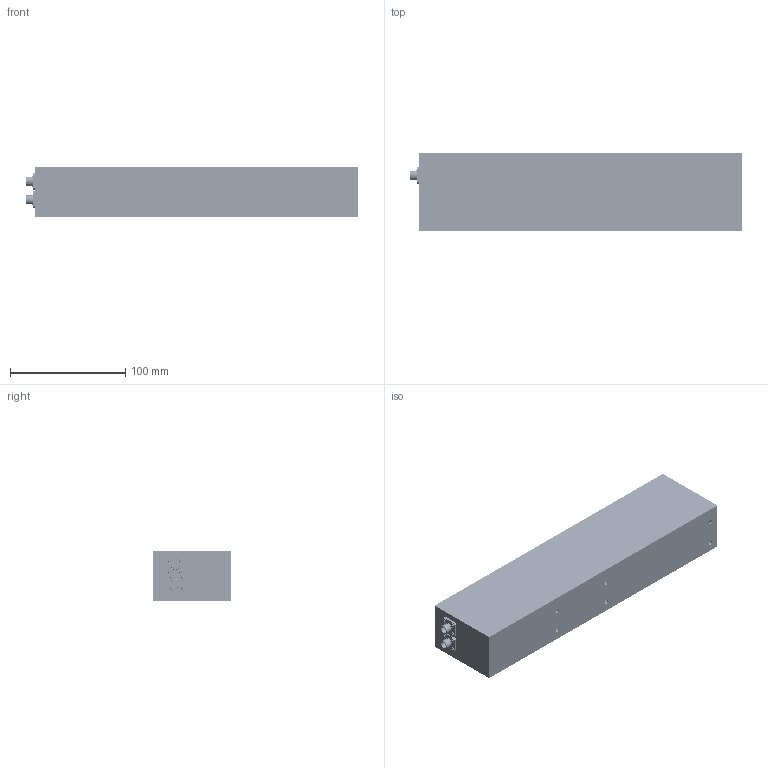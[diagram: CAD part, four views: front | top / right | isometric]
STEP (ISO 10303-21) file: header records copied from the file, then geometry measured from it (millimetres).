
FILE_DESCRIPTION (( 'STEP AP203' ), '1' );
FILE_NAME ('Mini motorized delay line layout.STEP', '2024-07-29T22:04:25', ( '' ), ( '' ), 'SwSTEP 2.0', 'SolidWorks 2018', '' );
FILE_SCHEMA (( 'CONFIG_CONTROL_DESIGN' ));
Length unit declared in the file: inch
Products named in the file (43): 6941xx301002.step; Mini motorized delay line layout; 6941xx301002_PinLame.step; SOIC-8-FOOTPRINT.step; connector-new; CONN_HEADER_2POS_2MM.step; MSSD Ver 1.0 v3.step; Board.step; CAPC3216X135.step; Model (5).step; mini 330ps box; CAPC1005X60.step; Model (2).step; Model (3).step; 1-soldermask.step; 6941xx301002_Back.step; 6941xx301002_PinContact2.step; RESC1005X40.step; Model (1).step; 1-copper.step; 694106301002.step; LEDC1005X25N_FLAT-G.step; SOT23.step; 16-soldermask.step; 16-copper.step; 694106301002_PinContact.step; 10103594.step; Model.step; SOT-23-5-FOOTPRINT.step; SOT-723-FOOTPRINT.step; CONN_HEADER_3POS_2MM.step; QFN-24-FOOTPRINT.step; 91290A012_Alloy Steel Socket Head Screw_91290A012; QSOP-24-FOOTPRINT.step; Model (4).step; Packages.step; Model (7).step; 10103594 v2.step; WSON-8.step; VLS3012HBX.step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
Assembly tree (71 placements, depth 5):
  Mini motorized delay line layout
    mini 330ps box
    connector-new  x2
    91290A012_Alloy Steel Socket Head Screw_91290A012  x8
    MSSD Ver 1.0 v3.step
      Packages.step
        10103594.step
          10103594 v2.step
        QFN-24-FOOTPRINT.step
          Model.step
        QSOP-24-FOOTPRINT.step
          Model (1).step
        SOIC-8-FOOTPRINT.step
          Model (2).step
        SOT-23-5-FOOTPRINT.step
          Model (3).step
        SOT-723-FOOTPRINT.step
          Model (4).step
        SP0503BAHTG-FOOTPRINT.step
          Model (5).step
        WSON-8.step
          Model (6).step
        LEDC1005X25N_FLAT-G.step
          Model (7).step
        694106301002.step
          6941xx301002.step
          694106301002_PinContact.step
          6941xx301002_Back.step
          6941xx301002_PinContact2.step
          6941xx301002_PinLame.step
          6941xx301002_PinBis.step
        CAPC1005X60.step  x10
        CAPC3216X135.step  x3
        CONN_HEADER_2POS_2MM.step
        CONN_HEADER_3POS_2MM.step
        SOT23.step  x2
        VLS3012HBX.step
        RESC1005X40.step  x10
      Board.step
      1-copper.step
      16-copper.step
      1-soldermask.step
      16-soldermask.step
Bounding box: 288 x 67 x 43.5 mm (x, y, z)
Volume: 135562.9 mm3; surface area: 155686.3 mm2
Topology: 586 solids, 622 shells, 10433 faces, 24908 edges, 15852 vertices
Faces by surface type: plane 6086, cylinder 3235, sphere 774, bspline 204, cone 100, torus 34
Entity records: 253444 total; most frequent: CARTESIAN_POINT 57393, ORIENTED_EDGE 39466, DIRECTION 37723, EDGE_CURVE 19781, VECTOR 14057, LINE 14057, VERTEX_POINT 13002, AXIS2_PLACEMENT_3D 11833
